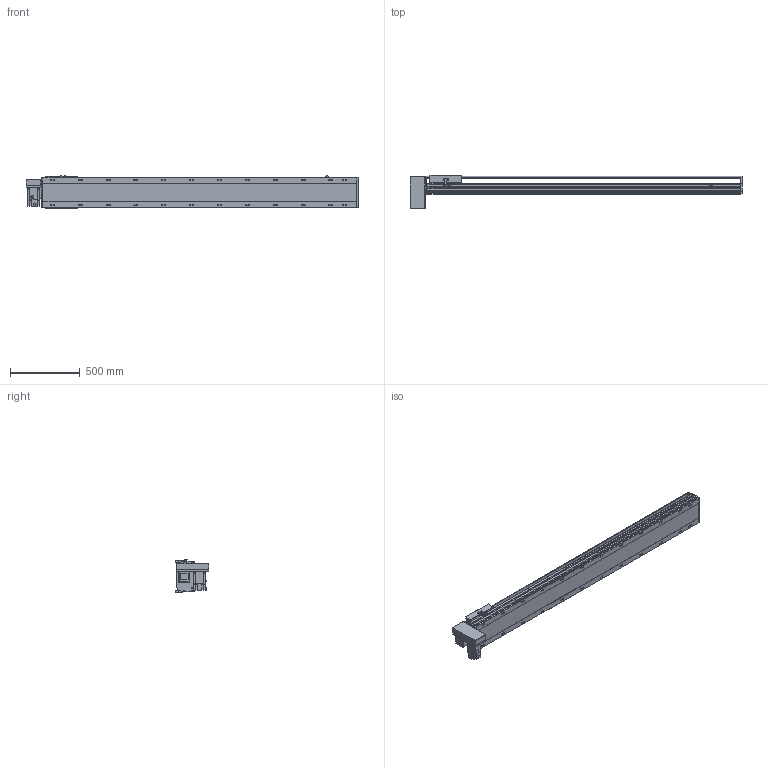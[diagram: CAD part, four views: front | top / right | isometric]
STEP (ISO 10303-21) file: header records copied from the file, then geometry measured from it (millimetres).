
FILE_DESCRIPTION(/* description */ ('STEP AP214'),/* implementation_level */ '2;1');
FILE_NAME(/* name */ 'PBS220-P40-S1900-RD-T75-C1-N(0)',/* time_stamp */ '2022-06-13T02:44:46+02:00',/* author */ ('License CC BY-ND 4.0'),/* organization */ ('CADENAS'),/* preprocessor_version */ 'ST-DEVELOPER v18.102',/* originating_system */ 'PARTsolutions',/* authorisation */ ' ');
FILE_SCHEMA (('AUTOMOTIVE_DESIGN {1 0 10303 214 3 1 1}'));
Length unit declared in the file: millimetre
Products named in the file (7): PBS220-P40-S1900-RD-T75-C1-N(0); PBS220_sensor; PBS220_plant; PBS220_sliser; T75-p1; PBS220T-RD_motors; PBS220-S1900()_body
Assembly tree (8 placements, depth 2):
  PBS220-P40-S1900-RD-T75-C1-N(0)
    PBS220_sensor  x3
    PBS220_plant
    PBS220_sliser
    T75-p1
    PBS220T-RD_motors
    PBS220-S1900()_body
Bounding box: 2384 x 239 x 238.5 mm (x, y, z)
Volume: 33575840.6 mm3; surface area: 3132459.2 mm2
Topology: 8 solids, 8 shells, 962 faces, 2508 edges, 1630 vertices
Faces by surface type: plane 614, cylinder 300, cone 48
Full cylindrical faces by diameter (mm): 2.013 x4, 4.5 x14, 4.917 x4, 6 x7, 6.647 x8, 8 x10, 8.376 x24, 8.5 x24, 10 x6, 14 x24, 38 x2, 40 x1, 70 x1
Entity records: 26877 total; most frequent: CARTESIAN_POINT 4756, DIRECTION 4671, ORIENTED_EDGE 4250, EDGE_CURVE 2125, AXIS2_PLACEMENT_3D 1659, VERTEX_POINT 1480, LINE 1353, VECTOR 1353
